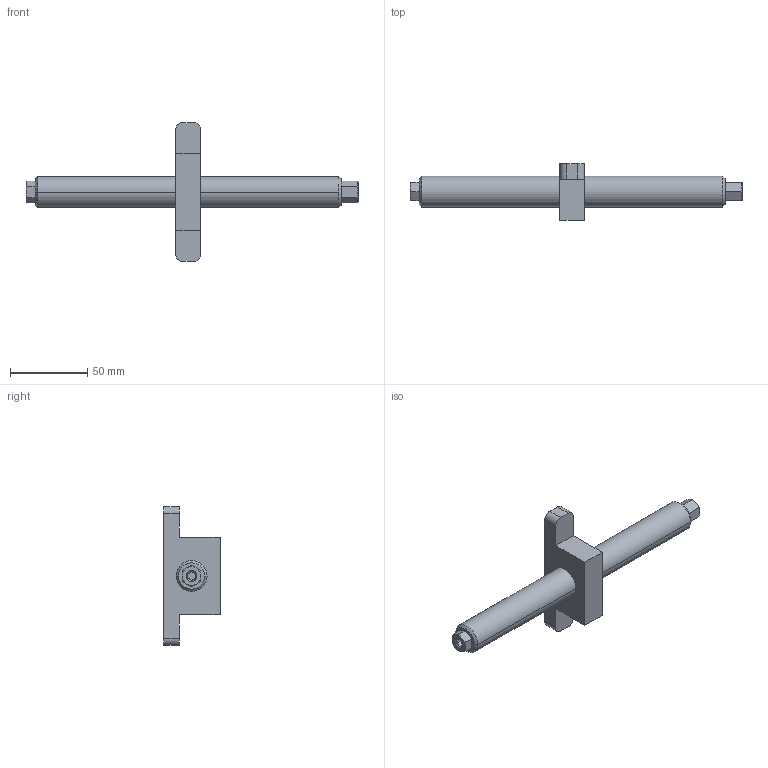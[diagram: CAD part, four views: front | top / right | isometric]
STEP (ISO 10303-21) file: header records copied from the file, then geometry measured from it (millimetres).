
FILE_DESCRIPTION (( 'STEP AP214' ), '1' );
FILE_NAME ('4025215.STEP', '2023-02-20T08:55:05', ( '' ), ( '' ), 'SwSTEP 2.0', 'SolidWorks 2021', '' );
FILE_SCHEMA (( 'AUTOMOTIVE_DESIGN' ));
Length unit declared in the file: millimetre
Products named in the file (1): 4025215
Bounding box: 215 x 36.5 x 90 mm (x, y, z)
Volume: 99290.9 mm3; surface area: 22293.8 mm2
Topology: 2 solids, 2 shells, 58 faces, 138 edges, 88 vertices
Faces by surface type: plane 40, cone 12, cylinder 6
Entity records: 2555 total; most frequent: CARTESIAN_POINT 565, ORIENTED_EDGE 276, DIRECTION 252, EDGE_CURVE 138, VERTEX_POINT 88, VECTOR 86, LINE 86, AXIS2_PLACEMENT_3D 83
